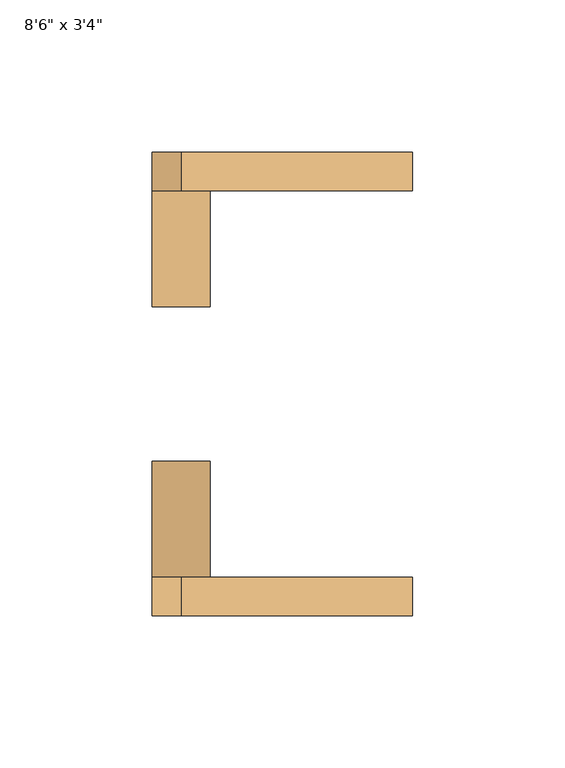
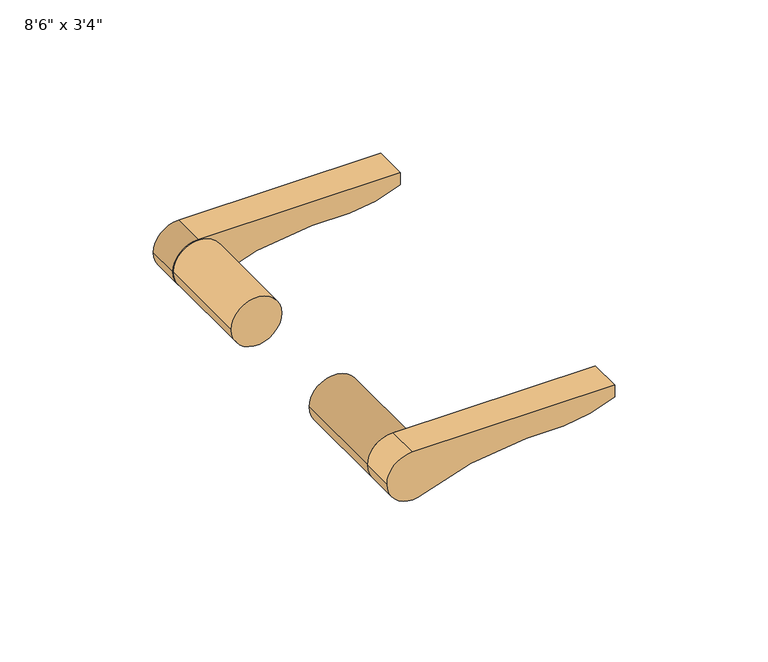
"""IFC4 building model written with IfcOpenShell, lengths in millimetres: door geometry."""

from ifc_helpers import new_model, si_unit, point, frame, frame_2d, origin, place, context, project, spatial, polyline, circle_curve, trimmed, segment, composite_curve, outline, extrude, source, transform, mapped, element, save


def door_a6112daf(model_context):
    return source(origin(), model_context, "Body", "SweptSolid", [
        extrude(outline(composite_curve([segment(trimmed(circle_curve(frame_2d((1016.0, -444.5)), 9.525), [point((1016.0, -454.025))], [point((1006.7131627, -442.3833333))], False, "CARTESIAN"), True, "CONTINUOUS"), segment(trimmed(circle_curve(frame_2d((910.8226001, -399.0965958)), 105.2080873), [point((1006.7131627, -442.3833333))], [point((1016.0, -401.6375))], True, "CARTESIAN"), True, "CONTINUOUS"), segment(polyline([(1016.0, -401.6375), (1016.0, -387.4013442)]), True, "CONTINUOUS"), segment(trimmed(circle_curve(frame_2d((1066.7220571, -389.903389)), 50.7837307), [point((1016.0, -387.4013442))], [point((1020.7625, -368.3))], False, "CARTESIAN"), True, "CONTINUOUS"), segment(polyline([(1020.7625, -368.3), (1025.525, -368.3), (1025.525, -444.5)]), True, "CONTINUOUS"), segment(trimmed(circle_curve(frame_2d((1016.0, -444.5)), 9.525), [point((1025.525, -444.5))], [point((1016.0, -454.025))], False, "CARTESIAN"), True, "CONTINUOUS")], self_intersect=False)), frame((0.0, -50.8, 0.0), z_axis=(0.0, 1.0, 0.0), x_axis=(0.0, 0.0, 1.0)), (0.0, 0.0, 1.0), 12.7),
        extrude(outline(composite_curve([segment(trimmed(circle_curve(frame_2d((1016.0, -444.5)), 9.525), [point((1016.0, -454.025))], [point((1006.7131627, -442.3833333))], False, "CARTESIAN"), True, "CONTINUOUS"), segment(trimmed(circle_curve(frame_2d((910.8226001, -399.0965958)), 105.2080873), [point((1006.7131627, -442.3833333))], [point((1016.0, -401.6375))], True, "CARTESIAN"), True, "CONTINUOUS"), segment(polyline([(1016.0, -401.6375), (1016.0, -387.4013442)]), True, "CONTINUOUS"), segment(trimmed(circle_curve(frame_2d((1066.7220571, -389.903389)), 50.7837307), [point((1016.0, -387.4013442))], [point((1020.7625, -368.3))], False, "CARTESIAN"), True, "CONTINUOUS"), segment(polyline([(1020.7625, -368.3), (1025.525, -368.3), (1025.525, -444.5)]), True, "CONTINUOUS"), segment(trimmed(circle_curve(frame_2d((1016.0, -444.5)), 9.525), [point((1025.525, -444.5))], [point((1016.0, -454.025))], False, "CARTESIAN"), True, "CONTINUOUS")], self_intersect=False)), frame((0.0, 88.9, 0.0), z_axis=(0.0, 1.0, 0.0), x_axis=(0.0, 0.0, 1.0)), (0.0, 0.0, 1.0), 12.7),
        extrude(outline(composite_curve([segment(trimmed(circle_curve(frame_2d((1016.0, -444.5)), 9.525), [point((1016.0, -434.975))], [point((1016.0, -454.025))], False, "CARTESIAN"), True, "CONTINUOUS"), segment(trimmed(circle_curve(frame_2d((1016.0, -444.5)), 9.525), [point((1016.0, -454.025))], [point((1016.0, -434.975))], False, "CARTESIAN"), True, "CONTINUOUS")], self_intersect=False)), frame((0.0, 50.8, 0.0), z_axis=(0.0, 1.0, 0.0), x_axis=(0.0, 0.0, 1.0)), (0.0, 0.0, 1.0), 38.1),
        extrude(outline(composite_curve([segment(trimmed(circle_curve(frame_2d((1016.0, -444.5)), 9.525), [point((1016.0, -434.975))], [point((1016.0, -454.025))], False, "CARTESIAN"), True, "CONTINUOUS"), segment(trimmed(circle_curve(frame_2d((1016.0, -444.5)), 9.525), [point((1016.0, -454.025))], [point((1016.0, -434.975))], False, "CARTESIAN"), True, "CONTINUOUS")], self_intersect=False)), frame((0.0, -38.1, 0.0), z_axis=(0.0, 1.0, 0.0), x_axis=(0.0, 0.0, 1.0)), (0.0, 0.0, 1.0), 38.1),
    ])


if __name__ == "__main__":
    model = new_model("IFC4")
    model_context = context("Model", 3, world=origin())
    ifc_project = project(units=[si_unit("LENGTHUNIT", "METRE", prefix="MILLI")], contexts=[model_context])
    site = spatial("IfcSite", under=ifc_project)
    building = spatial("IfcBuilding", under=site)
    placement = place(None, origin())
    door_shape = door_a6112daf(model_context)
    element("IfcDoor", 1, ObjectType="Planitar - Single Door_Swapper : 8'6\" x 3'4\"", at=placement, inside=building, context=model_context, shape_type="MappedRepresentation", body=[
        mapped(door_shape, transform((0.0, 0.0, 0.0), x_axis=(1.0, 0.0, 0.0), y_axis=(0.0, 1.0, 0.0), z_axis=(0.0, 0.0, 1.0))),
    ])
    save(model, "model.ifc")
